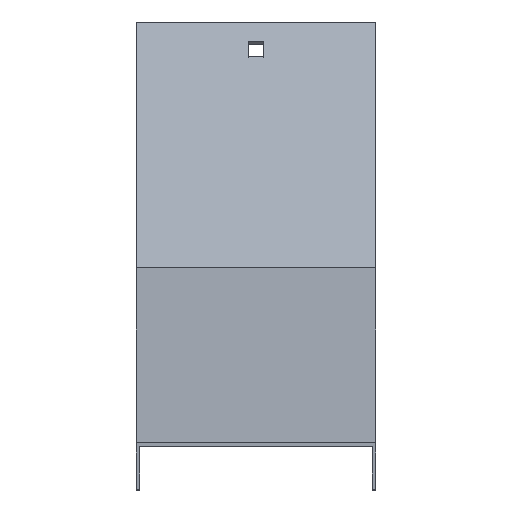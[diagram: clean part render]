
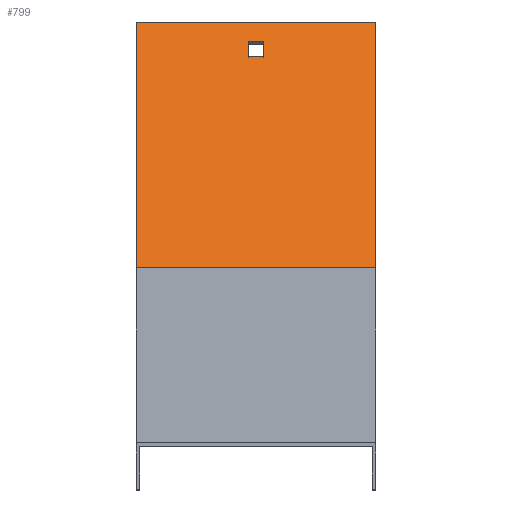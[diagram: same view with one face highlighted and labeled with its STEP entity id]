
A CAD part, top view. The second image highlights one B-rep face of the part: STEP entity #799.
In plain terms, the highlighted planar face has unit normal (0, 0.707, 0.707).
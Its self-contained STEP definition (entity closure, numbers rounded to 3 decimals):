
#18 = ORIENTED_EDGE ( 'NONE', *, *, #176, .T. ) ;
#42 = EDGE_CURVE ( 'NONE', #760, #742, #206, .T. ) ;
#44 = EDGE_CURVE ( 'NONE', #568, #598, #148, .T. ) ;
#65 = EDGE_CURVE ( 'NONE', #598, #760, #208, .T. ) ;
#67 = CARTESIAN_POINT ( 'NONE',  ( 51.5, 181.887, -439.115 ) ) ;
#79 = ORIENTED_EDGE ( 'NONE', *, *, #42, .F. ) ;
#93 = VECTOR ( 'NONE', #315, 1000. ) ;
#127 = CARTESIAN_POINT ( 'NONE',  ( 51.5, 75.963, -333.19 ) ) ;
#128 = EDGE_CURVE ( 'NONE', #742, #568, #834, .T. ) ;
#139 = CARTESIAN_POINT ( 'NONE',  ( -51.5, 75.963, -333.19 ) ) ;
#148 = LINE ( 'NONE', #405, #160 ) ;
#160 = VECTOR ( 'NONE', #668, 1000. ) ;
#168 = VERTEX_POINT ( 'NONE', #309 ) ;
#171 = ORIENTED_EDGE ( 'NONE', *, *, #65, .F. ) ;
#175 = DIRECTION ( 'NONE',  ( -1., 0., 0. ) ) ;
#176 = EDGE_CURVE ( 'NONE', #168, #813, #511, .T. ) ;
#182 = DIRECTION ( 'NONE',  ( 0., -0.707, 0.707 ) ) ;
#191 = FACE_BOUND ( 'NONE', #778, .T. ) ;
#197 = VECTOR ( 'NONE', #601, 1000. ) ;
#206 = LINE ( 'NONE', #468, #422 ) ;
#208 = LINE ( 'NONE', #473, #646 ) ;
#229 = EDGE_LOOP ( 'NONE', ( #841, #408, #18, #806 ) ) ;
#231 = EDGE_CURVE ( 'NONE', #168, #790, #770, .T. ) ;
#233 = CARTESIAN_POINT ( 'NONE',  ( -51.5, 181.887, -439.115 ) ) ;
#255 = VECTOR ( 'NONE', #756, 1000. ) ;
#309 = CARTESIAN_POINT ( 'NONE',  ( 51.5, 75.963, -333.19 ) ) ;
#315 = DIRECTION ( 'NONE',  ( -1., 0., 0. ) ) ;
#343 = ORIENTED_EDGE ( 'NONE', *, *, #44, .F. ) ;
#392 = PLANE ( 'NONE',  #401 ) ;
#401 = AXIS2_PLACEMENT_3D ( 'NONE', #127, #655, #182 ) ;
#405 = CARTESIAN_POINT ( 'NONE',  ( 3.25, 167.038, -424.265 ) ) ;
#408 = ORIENTED_EDGE ( 'NONE', *, *, #231, .F. ) ;
#414 = LINE ( 'NONE', #531, #197 ) ;
#422 = VECTOR ( 'NONE', #731, 1000. ) ;
#439 = CARTESIAN_POINT ( 'NONE',  ( 3.25, 167.038, -424.265 ) ) ;
#440 = DIRECTION ( 'NONE',  ( -1., 0., 0. ) ) ;
#448 = CARTESIAN_POINT ( 'NONE',  ( 51.5, 75.963, -333.19 ) ) ;
#453 = DIRECTION ( 'NONE',  ( 0., 0.707, -0.707 ) ) ;
#468 = CARTESIAN_POINT ( 'NONE',  ( -3.25, 167.038, -424.265 ) ) ;
#473 = CARTESIAN_POINT ( 'NONE',  ( 3.25, 173.402, -430.629 ) ) ;
#483 = CARTESIAN_POINT ( 'NONE',  ( -3.25, 167.038, -424.265 ) ) ;
#511 = LINE ( 'NONE', #641, #743 ) ;
#531 = CARTESIAN_POINT ( 'NONE',  ( -51.5, 75.963, -333.19 ) ) ;
#568 = VERTEX_POINT ( 'NONE', #801 ) ;
#598 = VERTEX_POINT ( 'NONE', #684 ) ;
#601 = DIRECTION ( 'NONE',  ( 0., 0.707, -0.707 ) ) ;
#630 = LINE ( 'NONE', #754, #732 ) ;
#632 = EDGE_CURVE ( 'NONE', #790, #726, #414, .T. ) ;
#641 = CARTESIAN_POINT ( 'NONE',  ( 51.5, 75.963, -333.19 ) ) ;
#646 = VECTOR ( 'NONE', #175, 1000. ) ;
#649 = FACE_OUTER_BOUND ( 'NONE', #229, .T. ) ;
#655 = DIRECTION ( 'NONE',  ( 0., 0.707, 0.707 ) ) ;
#668 = DIRECTION ( 'NONE',  ( 0., 0.707, -0.707 ) ) ;
#682 = ORIENTED_EDGE ( 'NONE', *, *, #128, .F. ) ;
#684 = CARTESIAN_POINT ( 'NONE',  ( 3.25, 173.402, -430.629 ) ) ;
#698 = EDGE_CURVE ( 'NONE', #813, #726, #630, .T. ) ;
#726 = VERTEX_POINT ( 'NONE', #233 ) ;
#731 = DIRECTION ( 'NONE',  ( 0., -0.707, 0.707 ) ) ;
#732 = VECTOR ( 'NONE', #440, 1000. ) ;
#742 = VERTEX_POINT ( 'NONE', #483 ) ;
#743 = VECTOR ( 'NONE', #453, 1000. ) ;
#754 = CARTESIAN_POINT ( 'NONE',  ( 51.5, 181.887, -439.115 ) ) ;
#756 = DIRECTION ( 'NONE',  ( 1., 0., 0. ) ) ;
#760 = VERTEX_POINT ( 'NONE', #825 ) ;
#770 = LINE ( 'NONE', #448, #93 ) ;
#778 = EDGE_LOOP ( 'NONE', ( #343, #682, #79, #171 ) ) ;
#790 = VERTEX_POINT ( 'NONE', #139 ) ;
#799 = ADVANCED_FACE ( 'NONE', ( #191, #649 ), #392, .T. ) ;
#801 = CARTESIAN_POINT ( 'NONE',  ( 3.25, 167.038, -424.265 ) ) ;
#806 = ORIENTED_EDGE ( 'NONE', *, *, #698, .T. ) ;
#813 = VERTEX_POINT ( 'NONE', #67 ) ;
#825 = CARTESIAN_POINT ( 'NONE',  ( -3.25, 173.402, -430.629 ) ) ;
#834 = LINE ( 'NONE', #439, #255 ) ;
#841 = ORIENTED_EDGE ( 'NONE', *, *, #632, .F. ) ;
